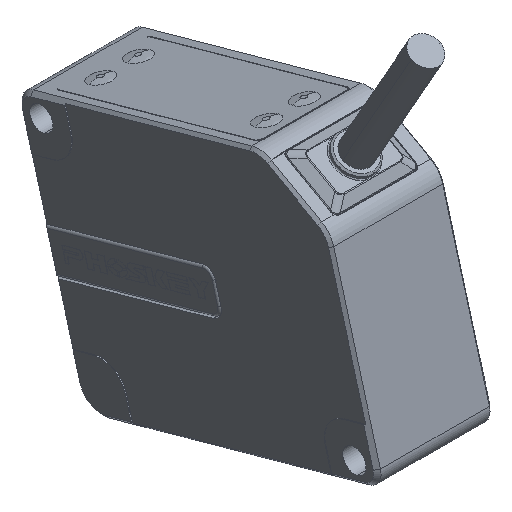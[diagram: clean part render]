
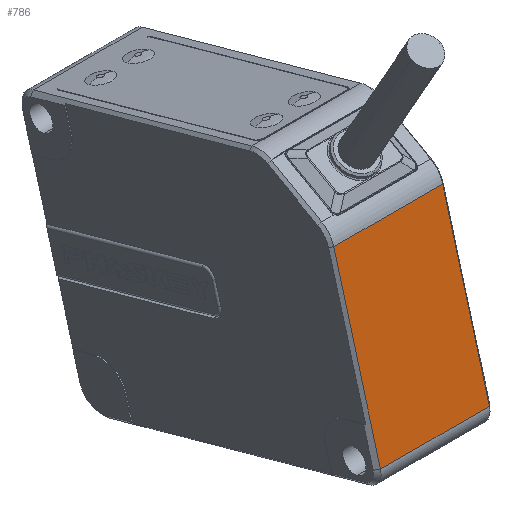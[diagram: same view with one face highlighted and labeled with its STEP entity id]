
A CAD part, isometric view. The second image highlights one B-rep face of the part: STEP entity #786.
In plain terms, the highlighted planar face has unit normal (0, -0.964, 0.268).
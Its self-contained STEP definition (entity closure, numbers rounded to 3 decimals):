
#786=ADVANCED_FACE('',(#1520),#1154,.T.);
#1154=PLANE('',#8531);
#1520=FACE_OUTER_BOUND('',#2020,.T.);
#2020=EDGE_LOOP('',(#3823,#3824,#3825,#3826));
#3823=ORIENTED_EDGE('',*,*,#6542,.F.);
#3824=ORIENTED_EDGE('',*,*,#6530,.F.);
#3825=ORIENTED_EDGE('',*,*,#6525,.T.);
#3826=ORIENTED_EDGE('',*,*,#6524,.T.);
#5348=VERTEX_POINT('',#15177);
#5374=VERTEX_POINT('',#15423);
#5405=VERTEX_POINT('',#15973);
#5409=VERTEX_POINT('',#16008);
#6524=EDGE_CURVE('',#5348,#5405,#7768,.T.);
#6525=EDGE_CURVE('',#5374,#5348,#7769,.T.);
#6530=EDGE_CURVE('',#5374,#5409,#7774,.T.);
#6542=EDGE_CURVE('',#5409,#5405,#7786,.T.);
#7768=B_SPLINE_CURVE_WITH_KNOTS('',3,(#15974,#15975,#15976,#15977),
 .UNSPECIFIED.,.F.,.F.,(4,4),(0.,1.),.UNSPECIFIED.);
#7769=B_SPLINE_CURVE_WITH_KNOTS('',3,(#15979,#15980,#15981,#15982),
 .UNSPECIFIED.,.F.,.F.,(4,4),(0.,1.),.UNSPECIFIED.);
#7774=B_SPLINE_CURVE_WITH_KNOTS('',3,(#16004,#16005,#16006,#16007),
 .UNSPECIFIED.,.F.,.F.,(4,4),(0.,1.),.UNSPECIFIED.);
#7786=B_SPLINE_CURVE_WITH_KNOTS('',3,(#16064,#16065,#16066,#16067),
 .UNSPECIFIED.,.F.,.F.,(4,4),(0.,1.),.UNSPECIFIED.);
#8531=AXIS2_PLACEMENT_3D('',#16068,#9296,#9297);
#9296=DIRECTION('',(0.,-0.964,0.268));
#9297=DIRECTION('',(-1.,0.,0.001));
#15177=CARTESIAN_POINT('',(12.471,-26.565,-2.63));
#15423=CARTESIAN_POINT('',(-8.689,-26.56,-2.612));
#15973=CARTESIAN_POINT('',(12.501,-17.444,30.205));
#15974=CARTESIAN_POINT('',(12.471,-26.565,-2.63));
#15975=CARTESIAN_POINT('',(12.481,-23.524,8.315));
#15976=CARTESIAN_POINT('',(12.491,-20.484,19.26));
#15977=CARTESIAN_POINT('',(12.501,-17.444,30.205));
#15979=CARTESIAN_POINT('',(-8.689,-26.56,-2.612));
#15980=CARTESIAN_POINT('',(-1.636,-26.561,-2.618));
#15981=CARTESIAN_POINT('',(5.418,-26.563,-2.624));
#15982=CARTESIAN_POINT('',(12.471,-26.565,-2.63));
#16004=CARTESIAN_POINT('',(-8.689,-26.56,-2.612));
#16005=CARTESIAN_POINT('',(-8.679,-23.519,8.333));
#16006=CARTESIAN_POINT('',(-8.669,-20.479,19.278));
#16007=CARTESIAN_POINT('',(-8.659,-17.439,30.223));
#16008=CARTESIAN_POINT('',(-8.659,-17.439,30.223));
#16064=CARTESIAN_POINT('',(-8.659,-17.439,30.223));
#16065=CARTESIAN_POINT('',(-1.605,-17.44,30.217));
#16066=CARTESIAN_POINT('',(5.448,-17.442,30.211));
#16067=CARTESIAN_POINT('',(12.501,-17.444,30.205));
#16068=CARTESIAN_POINT('',(-8.179,-17.479,30.079));
